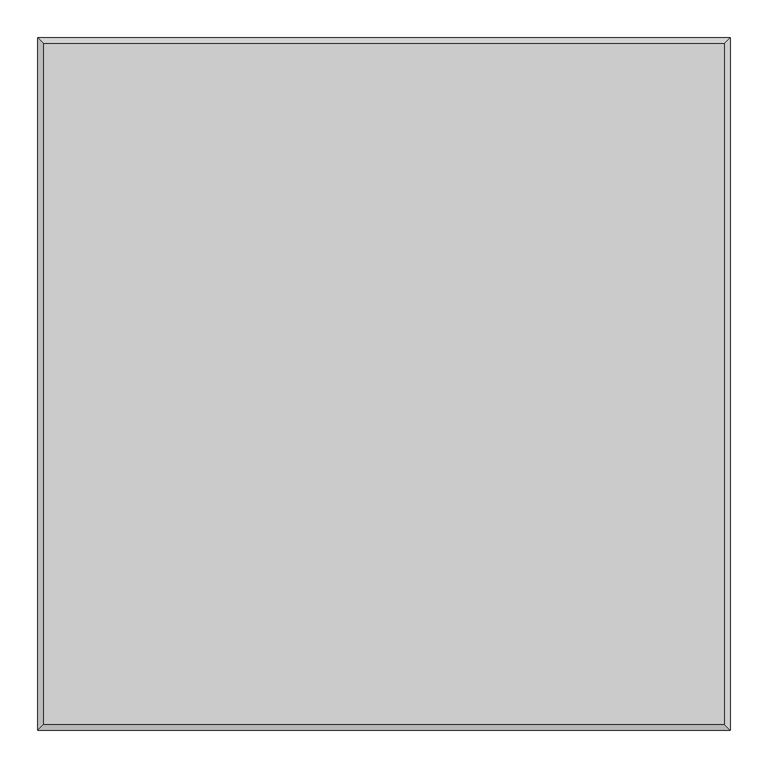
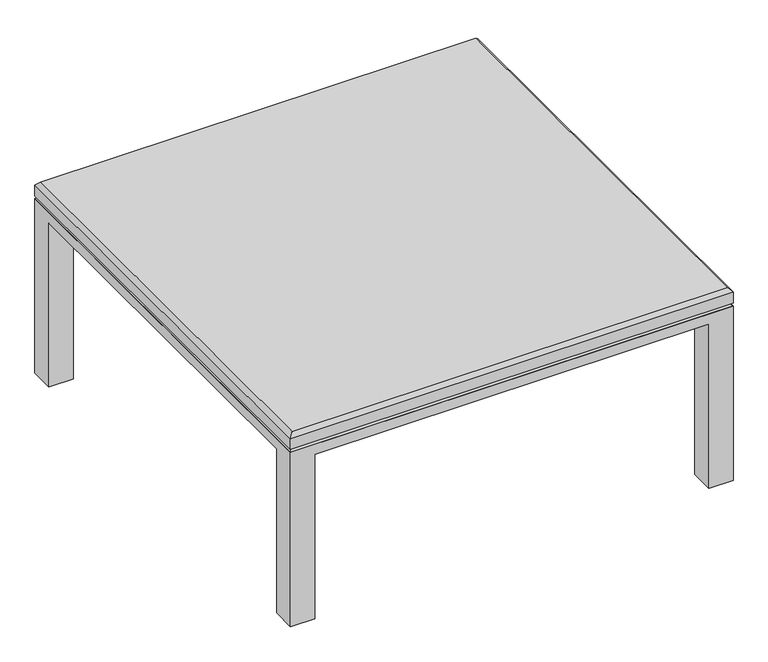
"""IFC4 building model written with IfcOpenShell, lengths in millimetres: furniture geometry, Steelcase Coalesse - Swathmore Plus - Beveled : 36D x 36W x 16 1/2H - Glass Top."""

from ifc_helpers import new_model, si_unit, origin, place, context, project, spatial, faceted_brep, source, transform, mapped, element, save


def furniture_fe285424(model_context):
    return source(origin(), model_context, "Body", "Brep", [
        faceted_brep([(914.4, 0.0, 381.0), (0.0, 0.0, 381.0), (0.0, -914.4, 381.0), (914.4, -914.4, 381.0), (914.4, -50.1297163, 358.7750121), (914.4, -864.5013016, 358.7750121), (864.2734085, -864.5013016, 358.7750121), (864.2734085, -864.2702837, 358.7750121), (908.0498062, -864.2702837, 358.7750121), (908.0498062, -50.1297163, 358.7750121), (864.2734085, -914.4, 358.7750121), (50.1812393, -914.4, 358.7750121), (50.1812393, -864.5013016, 358.7750121), (0.0, -864.5013016, 358.7750121), (0.0, -50.1297163, 358.7750121), (6.3501938, -50.1297163, 358.7750121), (6.3501938, -864.2702837, 358.7750121), (50.8001938, -864.2702837, 358.7750121), (50.8001938, -908.0496318, 358.7750121), (864.2734085, -908.0496318, 358.7750121), (50.1812393, 0.0, 358.7750121), (864.2734085, 0.0, 358.7750121), (864.2734085, -6.3503682, 358.7750121), (50.8001938, -6.3503682, 358.7750121), (50.8001938, -50.1297163, 358.7750121), (50.1812393, -50.1297163, 358.7750121), (914.4, 0.0, 0.0), (864.2734085, 0.0, 0.0), (50.1812393, 0.0, 0.0), (0.0, 0.0, 0.0), (0.0, -50.1297163, 0.0), (0.0, -864.5013016, 0.0), (0.0, -914.4, 0.0), (50.1812393, -914.4, 0.0), (864.2734085, -914.4, 0.0), (914.4, -914.4, 0.0), (914.4, -864.5013016, 0.0), (914.4, -50.1297163, 0.0), (50.1812393, -50.1297163, 0.0), (50.1812393, -864.5013016, 0.0), (864.2734085, -50.1297163, 0.0), (864.2734085, -864.5013016, 0.0), (50.1812393, -864.5013016, 336.5499879), (864.2734085, -50.1297163, 336.5499879), (864.2734085, -28.575, 336.5499879), (885.825, -50.1297163, 336.5499879), (864.2734085, -864.5013016, 336.5499879), (864.2734085, -885.825, 336.5499879), (50.7998062, -50.8000242, 336.5499879), (50.7998062, -28.575, 336.5499879), (885.825, -864.5013016, 336.5499879), (50.1812393, -885.825, 336.5499879), (50.1812393, -864.5013016, 336.5499879), (28.5708422, -864.5013016, 336.5499879), (28.5708422, -50.8000242, 336.5499879)], [[[0, 1, 2, 3]], [[4, 5, 6, 7, 8, 9]], [[10, 11, 12, 13, 14, 15, 16, 17, 18, 19]], [[20, 21, 22, 23, 24, 25]], [[1, 0, 26, 27, 21, 20, 28, 29]], [[2, 1, 29, 30, 14, 13, 31, 32]], [[3, 2, 32, 33, 11, 10, 34, 35]], [[0, 3, 35, 36, 5, 4, 37, 26]], [[28, 38, 30, 29]], [[33, 32, 31, 39]], [[26, 37, 40, 27]], [[36, 35, 34, 41]], [[30, 38, 25, 15, 14]], [[38, 28, 20, 25]], [[33, 39, 42, 12, 11]], [[39, 31, 13, 12, 42]], [[27, 40, 43, 44, 22, 21]], [[40, 37, 4, 9, 45, 43]], [[36, 41, 46, 6, 5]], [[41, 34, 10, 19, 47, 46]], [[48, 49, 44, 43, 45, 50, 46, 47, 51, 52, 53, 54]], [[48, 54, 15, 25, 24]], [[54, 53, 16, 15]], [[53, 52, 17, 16]], [[52, 51, 18, 17]], [[51, 47, 19, 18]], [[46, 7, 6]], [[46, 50, 8, 7]], [[50, 45, 9, 8]], [[44, 49, 23, 22]], [[49, 48, 24, 23]]]),
        faceted_brep([(914.4, -914.4, 411.1625121), (914.4, -914.4, 387.3500121), (914.4, 0.0, 387.3500121), (914.4, 0.0, 411.1625121), (0.0, 0.0, 411.1625121), (0.0, 0.0, 387.3500121), (0.0, -914.4, 387.3500121), (0.0, -914.4, 411.1625121), (906.4626938, -7.9375242, 419.1), (7.9373062, -7.9375242, 419.1), (7.9373062, -906.4625484, 419.1), (906.4626938, -906.4625484, 419.1)], [[[0, 1, 2, 3]], [[4, 5, 6, 7]], [[1, 0, 7, 6]], [[2, 1, 6, 5]], [[3, 2, 5, 4]], [[8, 9, 10, 11]], [[8, 11, 0, 3]], [[11, 10, 7, 0]], [[10, 9, 4, 7]], [[9, 8, 3, 4]]]),
        faceted_brep([(914.4, 0.0, 381.0), (914.4, -914.4, 381.0), (0.0, -914.4, 381.0), (0.0, 0.0, 381.0), (908.0498062, -6.3499758, 387.3500121), (6.3501938, -6.3499758, 387.3500121), (6.3501938, -908.0496318, 387.3500121), (908.0498062, -908.0496318, 387.3500121)], [[[0, 1, 2, 3]], [[4, 5, 6, 7]], [[4, 7, 1, 0]], [[7, 6, 2, 1]], [[6, 5, 3, 2]], [[5, 4, 0, 3]]]),
    ])


if __name__ == "__main__":
    model = new_model("IFC4")
    model_context = context("Model", 3, world=origin())
    ifc_project = project(units=[si_unit("LENGTHUNIT", "METRE", prefix="MILLI")], contexts=[model_context])
    site = spatial("IfcSite", under=ifc_project)
    building = spatial("IfcBuilding", under=site)
    placement = place(None, origin())
    furniture_shape = furniture_fe285424(model_context)
    element("IfcFurniture", 1, ObjectType="Steelcase Coalesse - Swathmore Plus - Beveled : 36D x 36W x 16 1/2H - Glass Top", at=placement, inside=building, context=model_context, shape_type="MappedRepresentation", body=[
        mapped(furniture_shape, transform((0.0, 0.0, 0.0), x_axis=(1.0, 0.0, 0.0), y_axis=(0.0, 1.0, 0.0), z_axis=(0.0, 0.0, 1.0))),
    ])
    save(model, "model.ifc")
